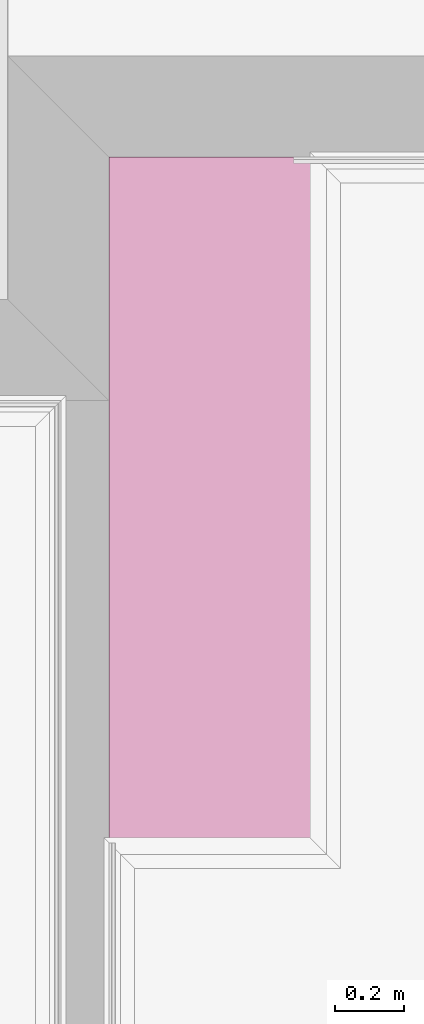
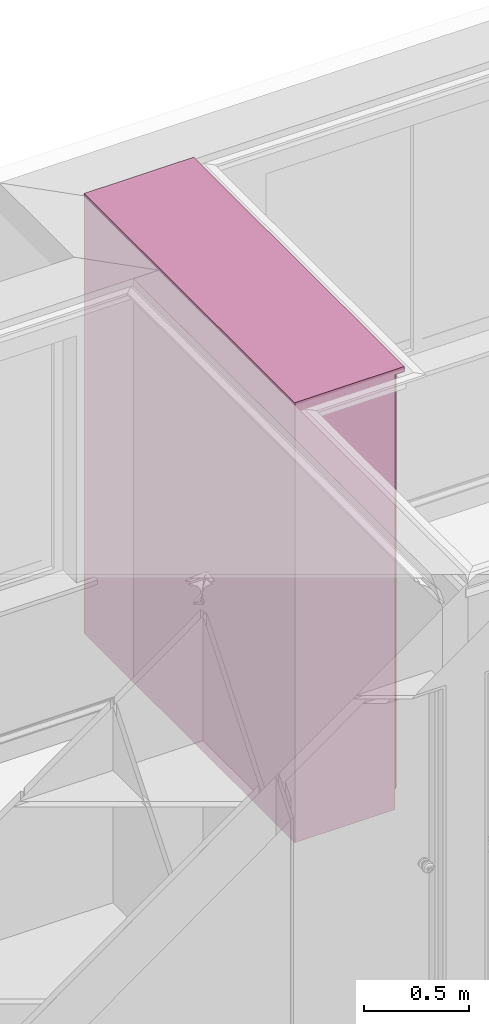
# One storey, part 18 of 18: 1 furnishing.
"""IFC2X3 building model written with IfcOpenShell, lengths in millimetres."""

from ifc_helpers import new_model, entity, si_unit, converted_unit, money_unit, direction, frame, origin_with_axes, place, context, subcontext, project, spatial, faceted_brep, source, transform, mapped, material, type_object, element, save


model = new_model("IFC2X3")

# Units and contexts
model_context = context("Model", 3, precision=1e-05, world=origin_with_axes(), true_north=direction((0.0, 1.0)))
body_context = subcontext(model_context, "Body", "Model", "MODEL_VIEW")
ifc_project = project(units=[si_unit("LENGTHUNIT", "METRE", prefix="MILLI"), si_unit("AREAUNIT", "SQUARE_METRE"), si_unit("VOLUMEUNIT", "CUBIC_METRE"), converted_unit("PLANEANGLEUNIT", "DEGREE", entity("IfcPlaneAngleMeasure", 0.0174532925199), si_unit("PLANEANGLEUNIT", "RADIAN"), dimensions=[0, 0, 0, 0, 0, 0, 0]), si_unit("SOLIDANGLEUNIT", "STERADIAN"), money_unit("AUD"), si_unit("TIMEUNIT", "SECOND"), si_unit("MASSUNIT", "GRAM"), si_unit("THERMODYNAMICTEMPERATUREUNIT", "DEGREE_CELSIUS"), si_unit("LUMINOUSINTENSITYUNIT", "LUMEN")], contexts=[model_context])

# Site, building, storey
site_placement = place(None, origin_with_axes())
site = spatial("IfcSite", under=ifc_project, at=site_placement, Name="Lot 1. East Hills", CompositionType="ELEMENT")
building_placement = place(site_placement, origin_with_axes())
building = spatial("IfcBuilding", under=site, at=building_placement, Name="Proposed Units 7 & 8", CompositionType="ELEMENT")
storey_placement = place(building_placement, frame((0.0, 0.0, 5859.0), z_axis=(0.0, 0.0, 1.0), x_axis=(1.0, 0.0, 0.0)))
storey = spatial("IfcBuildingStorey", under=building, at=storey_placement, Name="Level 1", CompositionType="ELEMENT", Elevation=5859.0)

# Furnishing
ifc_material = material(Name="50 %")
furnishing_element_type = type_object("IfcFurnishingElementType", Name="Cupboard 12")
shared_shape = source(origin_with_axes(), body_context, "Body", "Brep", [
    faceted_brep([(1980.0, 600.656985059, 120.0), (1980.0, 600.656985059, 2500.0), (1980.0, 580.656985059, 2500.0), (1980.0, 580.656985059, 120.0), (20.0, 600.656985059, 120.0), (20.0, 600.656985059, 2500.0), (20.0, 580.656985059, 2500.0), (20.0, 580.656985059, 120.0)], [[[0, 1, 2, 3]], [[4, 5, 1, 0]], [[1, 5, 6, 2]], [[3, 2, 6, 7]], [[0, 3, 7, 4]], [[7, 6, 5, 4]]]),
    faceted_brep([(2000.0, 600.656985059, 100.0), (2000.0, 50.0, 100.0), (0.0, 50.0, 100.0), (0.0, 600.656985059, 100.0), (2000.0, 600.656985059, 2520.0), (2000.0, 50.0, 2520.0), (0.0, 50.0, 2520.0), (1980.0, 50.0, 120.0), (20.0, 50.0, 120.0), (20.0, 50.0, 2500.0), (1980.0, 50.0, 2500.0), (0.0, 600.656985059, 2520.0), (1980.0, 600.656985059, 120.0), (1980.0, 600.656985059, 2500.0), (20.0, 600.656985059, 2500.0), (20.0, 600.656985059, 120.0)], [[[0, 1, 2, 3]], [[4, 5, 1, 0]], [[1, 5, 6, 2], [7, 8, 9, 10]], [[3, 2, 6, 11]], [[0, 3, 11, 4], [12, 13, 14, 15]], [[11, 6, 5, 4]], [[15, 8, 7, 12]], [[14, 9, 8, 15]], [[13, 10, 9, 14]], [[12, 7, 10, 13]]]),
    faceted_brep([(0.0, 600.656985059, 2520.0), (0.0, 0.0, 2520.0), (0.0, 0.0, 2550.0), (0.0, 600.656985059, 2550.0), (2000.0, 600.656985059, 2520.0), (2000.0, 0.0, 2520.0), (2000.0, 0.0, 2550.0), (2000.0, 600.656985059, 2550.0)], [[[0, 1, 2, 3]], [[0, 4, 5, 1]], [[1, 5, 6, 2]], [[3, 2, 6, 7]], [[4, 0, 3, 7]], [[5, 4, 7, 6]]]),
    faceted_brep([(1960.0, 600.656985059, 0.0), (1960.0, 600.656985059, 100.0), (1960.0, 560.656985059, 100.0), (1960.0, 560.656985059, 0.0), (40.0, 600.656985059, 0.0), (40.0, 600.656985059, 100.0), (40.0, 560.656985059, 100.0), (40.0, 560.656985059, 0.0)], [[[0, 1, 2, 3]], [[4, 5, 1, 0]], [[1, 5, 6, 2]], [[3, 2, 6, 7]], [[0, 3, 7, 4]], [[7, 6, 5, 4]]]),
    faceted_brep([(2000.0, 600.656985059, 0.0), (2000.0, 600.656985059, 100.0), (2000.0, 50.0, 100.0), (2000.0, 50.0, 0.0), (1960.0, 600.656985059, 0.0), (1960.0, 600.656985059, 100.0), (1960.0, 50.0, 100.0), (1960.0, 50.0, 0.0)], [[[0, 1, 2, 3]], [[4, 5, 1, 0]], [[1, 5, 6, 2]], [[3, 2, 6, 7]], [[0, 3, 7, 4]], [[7, 6, 5, 4]]]),
    faceted_brep([(40.0, 600.656985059, 0.0), (40.0, 600.656985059, 100.0), (40.0, 50.0, 100.0), (40.0, 50.0, 0.0), (0.0, 600.656985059, 0.0), (0.0, 600.656985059, 100.0), (0.0, 50.0, 100.0), (0.0, 50.0, 0.0)], [[[0, 1, 2, 3]], [[4, 5, 1, 0]], [[1, 5, 6, 2]], [[3, 2, 6, 7]], [[0, 3, 7, 4]], [[7, 6, 5, 4]]]),
    faceted_brep([(1960.0, 130.0, 0.0), (1960.0, 130.0, 100.0), (1960.0, 90.0, 100.0), (1960.0, 90.0, 0.0), (40.0, 130.0, 0.0), (40.0, 130.0, 100.0), (40.0, 90.0, 100.0), (40.0, 90.0, 0.0)], [[[0, 1, 2, 3]], [[4, 5, 1, 0]], [[1, 5, 6, 2]], [[3, 2, 6, 7]], [[0, 3, 7, 4]], [[7, 6, 5, 4]]]),
    faceted_brep([(1980.0, 580.656985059, 900.0), (1980.0, 580.656985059, 920.0), (1980.0, 50.0, 920.0), (1980.0, 50.0, 900.0), (20.0, 580.656985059, 900.0), (20.0, 580.656985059, 920.0), (20.0, 50.0, 920.0), (20.0, 50.0, 900.0)], [[[0, 1, 2, 3]], [[4, 5, 1, 0]], [[1, 5, 6, 2]], [[3, 2, 6, 7]], [[0, 3, 7, 4]], [[7, 6, 5, 4]]]),
    faceted_brep([(1980.0, 580.656985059, 1700.0), (1980.0, 580.656985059, 1720.0), (1980.0, 50.0, 1720.0), (1980.0, 50.0, 1700.0), (20.0, 580.656985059, 1700.0), (20.0, 580.656985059, 1720.0), (20.0, 50.0, 1720.0), (20.0, 50.0, 1700.0)], [[[0, 1, 2, 3]], [[4, 5, 1, 0]], [[1, 5, 6, 2]], [[3, 2, 6, 7]], [[0, 3, 7, 4]], [[7, 6, 5, 4]]]),
    faceted_brep([(660.0, 580.656985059, 120.0), (660.0, 580.656985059, 2500.0), (680.0, 580.656985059, 2500.0), (680.0, 580.656985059, 120.0), (660.0, 50.0, 120.0), (660.0, 50.0, 2500.0), (680.0, 50.0, 2500.0), (680.0, 50.0, 120.0)], [[[0, 1, 2, 3]], [[4, 5, 1, 0]], [[1, 5, 6, 2]], [[3, 2, 6, 7]], [[0, 3, 7, 4]], [[7, 6, 5, 4]]]),
    faceted_brep([(1990.5, 50.0, 110.0), (1330.5, 50.0, 110.0), (1330.5, 50.0, 2510.0), (1990.5, 50.0, 2510.0), (1990.50000039, 40.0, 109.99999961), (1330.50000024, 40.0, 109.99999961), (1330.50000024, 40.0, 2509.99999998), (1990.50000039, 40.0, 2509.99999998), (1980.50000061, 30.0000002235, 119.999999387), (1340.50000002, 30.0000002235, 119.999999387), (1340.50000002, 30.0000002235, 2500.00000021), (1980.50000061, 30.0000002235, 2500.00000021)], [[[0, 1, 2, 3]], [[0, 4, 5, 1]], [[1, 5, 6, 2]], [[2, 6, 7, 3]], [[3, 7, 4, 0]], [[4, 8, 9, 5]], [[5, 9, 10, 6]], [[6, 10, 11, 7]], [[7, 11, 8, 4]], [[10, 9, 8, 11]]]),
    faceted_brep([(1330.5, 50.0, 110.0), (670.5, 50.0, 110.0), (670.5, 50.0, 2510.0), (1330.5, 50.0, 2510.0), (1330.50000039, 40.0, 109.99999961), (670.500000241, 40.0, 109.99999961), (670.500000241, 40.0, 2509.99999998), (1330.50000039, 40.0, 2509.99999998), (1320.50000061, 30.0000002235, 119.999999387), (680.500000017, 30.0000002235, 119.999999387), (680.500000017, 30.0000002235, 2500.00000021), (1320.50000061, 30.0000002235, 2500.00000021)], [[[0, 1, 2, 3]], [[0, 4, 5, 1]], [[1, 5, 6, 2]], [[2, 6, 7, 3]], [[3, 7, 4, 0]], [[4, 8, 9, 5]], [[5, 9, 10, 6]], [[6, 10, 11, 7]], [[7, 11, 8, 4]], [[10, 9, 8, 11]]]),
    faceted_brep([(670.5, 50.0, 110.0), (10.5, 50.0, 110.0), (10.5, 50.0, 2510.0), (670.5, 50.0, 2510.0), (670.50000039, 40.0, 109.99999961), (10.5000002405, 40.0, 109.99999961), (10.5000002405, 40.0, 2509.99999998), (670.50000039, 40.0, 2509.99999998), (660.500000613, 30.0000002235, 119.999999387), (20.500000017, 30.0000002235, 119.999999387), (20.500000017, 30.0000002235, 2500.00000021), (660.500000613, 30.0000002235, 2500.00000021)], [[[0, 1, 2, 3]], [[0, 4, 5, 1]], [[1, 5, 6, 2]], [[2, 6, 7, 3]], [[3, 7, 4, 0]], [[4, 8, 9, 5]], [[5, 9, 10, 6]], [[6, 10, 11, 7]], [[7, 11, 8, 4]], [[10, 9, 8, 11]]]),
    faceted_brep([(609.607695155, 30.0, 954.0), (608.0, 30.0, 960.0), (609.607695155, 30.0, 966.0), (614.0, 30.0, 970.392304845), (620.0, 30.0, 972.0), (626.0, 30.0, 970.392304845), (630.392304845, 30.0, 966.0), (632.0, 30.0, 960.0), (630.392304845, 30.0, 954.0), (626.0, 30.0, 949.607695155), (620.0, 30.0, 948.0), (614.0, 30.0, 949.607695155), (609.607695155, 5.0, 954.0), (608.0, 5.0, 960.0), (609.607695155, 5.0, 966.0), (614.0, 5.0, 970.392304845), (620.0, 5.0, 972.0), (626.0, 5.0, 970.392304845), (630.392304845, 5.0, 966.0), (632.0, 5.0, 960.0), (630.392304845, 5.0, 954.0), (626.0, 5.0, 949.607695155), (620.0, 5.0, 948.0), (614.0, 5.0, 949.607695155)], [[[0, 1, 2, 3, 4, 5, 6, 7, 8, 9, 10, 11]], [[0, 12, 13, 1]], [[1, 13, 14, 2]], [[2, 14, 15, 3]], [[3, 15, 16, 4]], [[4, 16, 17, 5]], [[5, 17, 18, 6]], [[6, 18, 19, 7]], [[7, 19, 20, 8]], [[8, 20, 21, 9]], [[9, 21, 22, 10]], [[10, 22, 23, 11]], [[11, 23, 12, 0]], [[12, 23, 22, 21, 20, 19, 18, 17, 16, 15, 14, 13]]]),
    faceted_brep([(1369.60769515, 30.0, 954.0), (1368.0, 30.0, 960.0), (1369.60769515, 30.0, 966.0), (1374.0, 30.0, 970.392304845), (1380.0, 30.0, 972.0), (1386.0, 30.0, 970.392304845), (1390.39230485, 30.0, 966.0), (1392.0, 30.0, 960.0), (1390.39230485, 30.0, 954.0), (1386.0, 30.0, 949.607695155), (1380.0, 30.0, 948.0), (1374.0, 30.0, 949.607695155), (1369.60769515, 5.0, 954.0), (1368.0, 5.0, 960.0), (1369.60769515, 5.0, 966.0), (1374.0, 5.0, 970.392304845), (1380.0, 5.0, 972.0), (1386.0, 5.0, 970.392304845), (1390.39230485, 5.0, 966.0), (1392.0, 5.0, 960.0), (1390.39230485, 5.0, 954.0), (1386.0, 5.0, 949.607695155), (1380.0, 5.0, 948.0), (1374.0, 5.0, 949.607695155)], [[[0, 1, 2, 3, 4, 5, 6, 7, 8, 9, 10, 11]], [[0, 12, 13, 1]], [[1, 13, 14, 2]], [[2, 14, 15, 3]], [[3, 15, 16, 4]], [[4, 16, 17, 5]], [[5, 17, 18, 6]], [[6, 18, 19, 7]], [[7, 19, 20, 8]], [[8, 20, 21, 9]], [[9, 21, 22, 10]], [[10, 22, 23, 11]], [[11, 23, 12, 0]], [[12, 23, 22, 21, 20, 19, 18, 17, 16, 15, 14, 13]]]),
    faceted_brep([(1290.39230485, 30.0, 954.0), (1286.0, 30.0, 949.607695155), (1280.0, 30.0, 948.0), (1274.0, 30.0, 949.607695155), (1269.60769515, 30.0, 954.0), (1268.0, 30.0, 960.0), (1269.60769515, 30.0, 966.0), (1274.0, 30.0, 970.392304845), (1280.0, 30.0, 972.0), (1286.0, 30.0, 970.392304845), (1290.39230485, 30.0, 966.0), (1292.0, 30.0, 960.0), (1290.39230485, 5.0, 954.0), (1286.0, 5.0, 949.607695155), (1280.0, 5.0, 948.0), (1274.0, 5.0, 949.607695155), (1269.60769515, 5.0, 954.0), (1268.0, 5.0, 960.0), (1269.60769515, 5.0, 966.0), (1274.0, 5.0, 970.392304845), (1280.0, 5.0, 972.0), (1286.0, 5.0, 970.392304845), (1290.39230485, 5.0, 966.0), (1292.0, 5.0, 960.0)], [[[0, 1, 2, 3, 4, 5, 6, 7, 8, 9, 10, 11]], [[1, 0, 12, 13]], [[2, 1, 13, 14]], [[3, 2, 14, 15]], [[4, 3, 15, 16]], [[5, 4, 16, 17]], [[6, 5, 17, 18]], [[7, 6, 18, 19]], [[8, 7, 19, 20]], [[9, 8, 20, 21]], [[10, 9, 21, 22]], [[11, 10, 22, 23]], [[0, 11, 23, 12]], [[12, 23, 22, 21, 20, 19, 18, 17, 16, 15, 14, 13]]]),
])
furnishing_placement = place(storey_placement, frame((12775.6569839, 2968.00000119, 0.0), z_axis=(0.0, 0.0, 1.0), x_axis=(0.0, 1.0, 0.0)))
element("IfcFurnishingElement", 1, at=furnishing_placement, inside=storey, type_object=furnishing_element_type, material=ifc_material, Name="CAB_L1_01 - Cupboard 12 - object -", context=body_context, shape_type="MappedRepresentation", body=[
    mapped(shared_shape, transform((0.0, 0.0, 0.0))),
])

save(model, "model.ifc")
